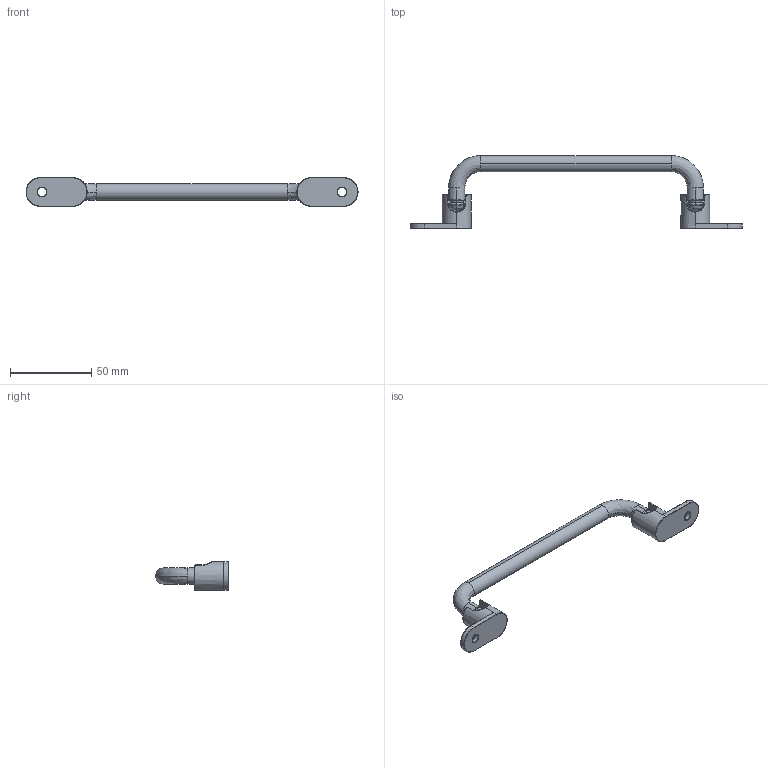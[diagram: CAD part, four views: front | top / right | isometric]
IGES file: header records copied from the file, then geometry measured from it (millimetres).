
Start section: SolidWorks IGES file using analytic representation for surfaces
Global section: file name: G:\HDS-501-3.IGS; native system: SolidWorks 2016; preprocessor: SolidWorks 2016; author: death; date: 210423.150058; units: millimetre
Bounding box: 204.9 x 45 x 17.8 mm (x, y, z)
Surface area: 11677.9 mm2 (no closed solid volume)
Topology: 0 solids, 0 shells, 144 faces, 1863 edges, 1838 vertices
Faces by surface type: bspline 84, revolution 60
